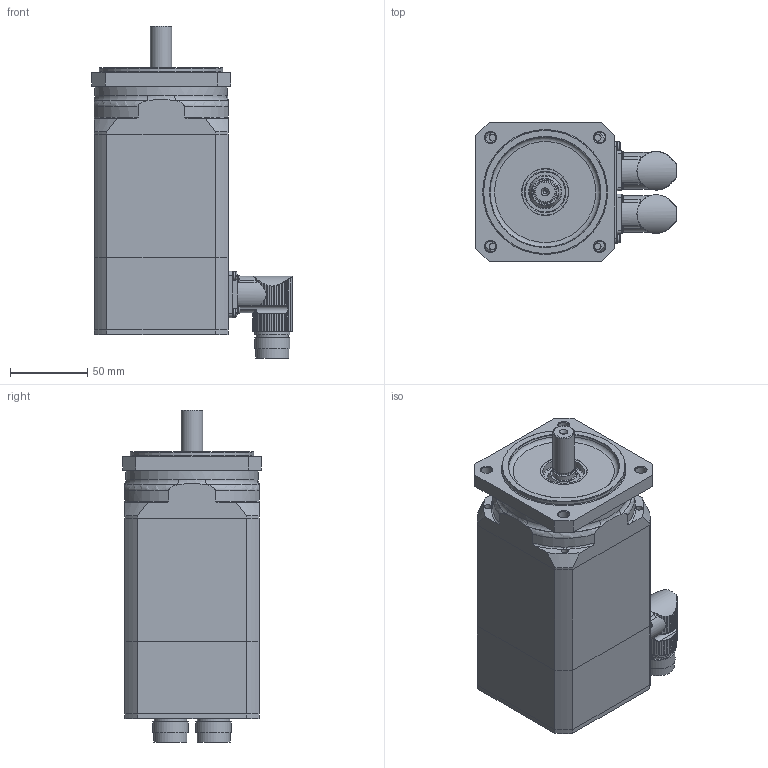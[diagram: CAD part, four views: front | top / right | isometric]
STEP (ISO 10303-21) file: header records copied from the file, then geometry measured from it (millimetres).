
FILE_DESCRIPTION(/* description */ (''),/* implementation_level */ '2;1');
FILE_NAME(/* name */ 'KSY 368 D-R4',/* time_stamp */ '2007-01-03T09:56:58+01:00',/* author */ (''),/* organization */ (''),/* preprocessor_version */ 'ST-DEVELOPER v8',/* originating_system */ 'UNIGRAPHICS SOLUTIONS - UNIGRAPHICS 18.0',/* authorisation */ '');
FILE_SCHEMA (('AUTOMOTIVE_DESIGN { 1 2 10303 214 0 1 1 1 }'));
Length unit declared in the file: millimetre
Products named in the file (14): Gehaeuse_SY3_80_0; Rotor_SY3_0; 113036_0; DIN3760_org_A15x30x7_0; iso2009-m3x8_A; iso1580-m2.5x6_A; iso1580-m3x10_A; din128-3_A; 014257_0; 014250_0; 064205Z_0; 113035_0; 064233_0; KSY364D-R4_0
Assembly tree (26 placements, depth 2):
  KSY364D-R4_0
    064233_0
    113035_0
    064205Z_0
    014250_0
    014257_0
    din128-3_A
    iso1580-m3x10_A  x4
    iso1580-m2.5x6_A  x8
    iso2009-m3x8_A  x4
    DIN3760_org_A15x30x7_0
    113036_0
    Rotor_SY3_0
    Gehaeuse_SY3_80_0
Bounding box: 129.99 x 90 x 215.15 mm (x, y, z)
Volume: 514124.1 mm3; surface area: 201442.2 mm2
Topology: 26 solids, 26 shells, 922 faces, 2433 edges, 1593 vertices
Faces by surface type: cylinder 505, plane 257, cone 81, torus 51, sphere 20, bspline 8
Full cylindrical faces by diameter (mm): 1 x16, 1.948 x8, 2 x4, 2.135 x8, 2.387 x4, 2.459 x8, 2.5 x9, 2.7 x8, 3 x8, 3.432 x3, 3.5 x11, 4.351 x4, 5.5 x4, 6 x4, 6.5 x3, 7 x4, 10 x5, 13.52 x1, 14 x1, 15 x2, 15.3 x1, 18 x4, 20 x6, 21 x2, 21.5 x2, 23 x5, 27 x2, 29 x1, 30 x2, 32 x1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
Entity records: 24140 total; most frequent: CARTESIAN_POINT 5782, DIRECTION 3756, ORIENTED_EDGE 3454, EDGE_CURVE 1727, AXIS2_PLACEMENT_3D 1603, VERTEX_POINT 1252, EDGE_LOOP 1128, CIRCLE 818
